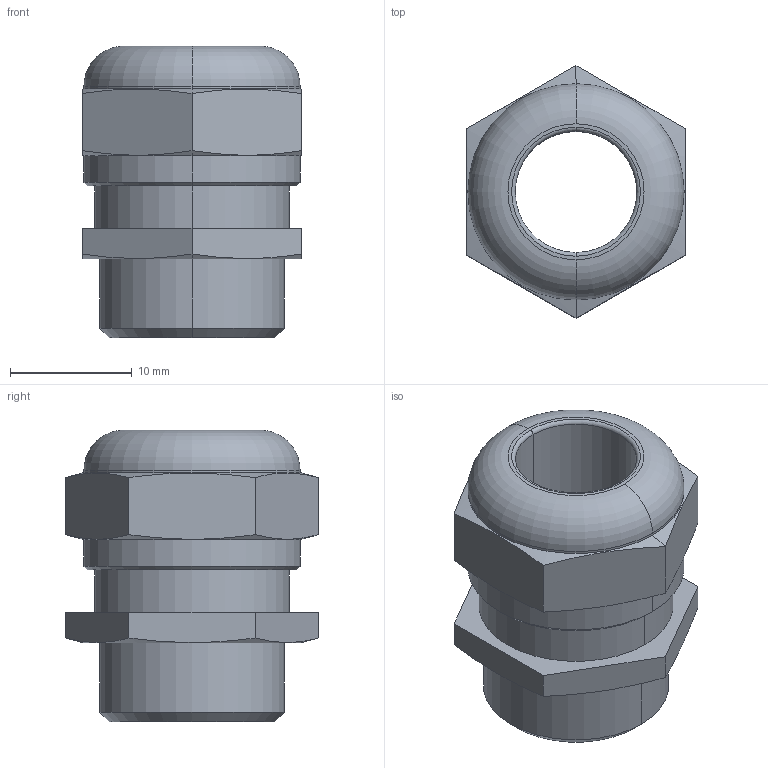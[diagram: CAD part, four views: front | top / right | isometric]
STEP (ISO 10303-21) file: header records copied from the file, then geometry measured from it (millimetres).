
FILE_DESCRIPTION (( 'STEP AP203' ), '1' );
FILE_NAME ('101009.STEP', '2006-10-04T11:21:41', ( ' ' ), ( '' ), 'SwSTEP 2.0', 'SolidWorks 2005278', '' );
FILE_SCHEMA (( 'CONFIG_CONTROL_DESIGN' ));
Length unit declared in the file: millimetre
Products named in the file (1): 101009
Bounding box: 18 x 20.78 x 24 mm (x, y, z)
Volume: 3586.8 mm3; surface area: 2493.9 mm2
Topology: 1 solids, 1 shells, 78 faces, 192 edges, 122 vertices
Faces by surface type: plane 54, cone 10, cylinder 10, torus 4
Entity records: 2461 total; most frequent: CARTESIAN_POINT 543, ORIENTED_EDGE 384, DIRECTION 366, EDGE_CURVE 192, LINE 140, VECTOR 140, VERTEX_POINT 122, AXIS2_PLACEMENT_3D 113
